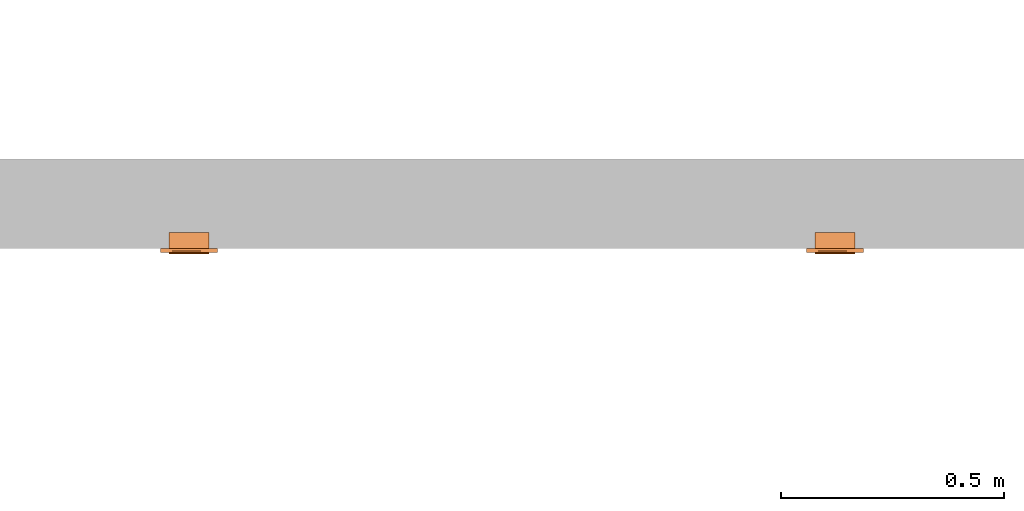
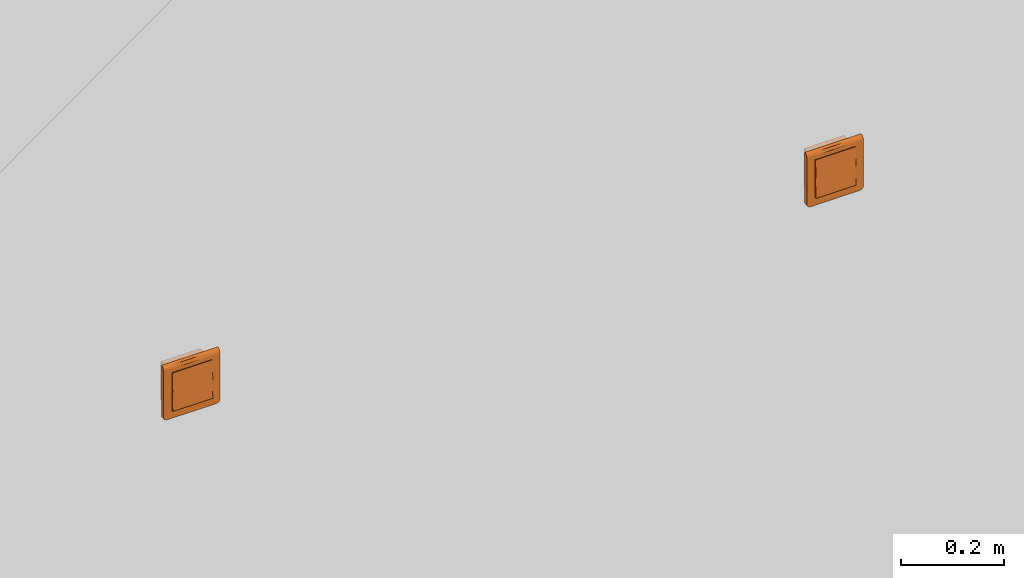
# One storey, part 185 of 197: 2 proxies.
"""IFC2X3 building model written with IfcOpenShell, lengths in metres."""

from ifc_helpers import new_model, entity, si_unit, converted_unit, direction, frame, origin, place, context, subcontext, project, spatial, faceted_brep, source, transform, mapped, material, material_list, type_object, type_shapes, element, save


model = new_model("IFC2X3")

# Units and contexts
model_context = context("Model", 3, precision=1e-05, world=origin(), true_north=direction((6.123031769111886e-17, 1.0)))
body_context = subcontext(model_context, "Body", "Model", "MODEL_VIEW")
ifc_project = project(units=[si_unit("LENGTHUNIT", "METRE"), converted_unit("PLANEANGLEUNIT", "DEGREE", entity("IfcPlaneAngleMeasure", 0.017453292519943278), si_unit("PLANEANGLEUNIT", "RADIAN"), dimensions=[0, 0, 0, 0, 0, 0, 0]), si_unit("AREAUNIT", "SQUARE_METRE")], contexts=[model_context])

# Site, building, storey
site_placement = place(None, origin())
site = spatial("IfcSite", under=ifc_project, at=site_placement, Name="Default", CompositionType="ELEMENT")
building_placement = place(site_placement, origin())
building = spatial("IfcBuilding", under=site, at=building_placement, CompositionType="ELEMENT")
storey_placement = place(building_placement, origin())
storey = spatial("IfcBuildingStorey", under=building, at=storey_placement, Name="Niveau 0", CompositionType="ELEMENT", Elevation=0.0)

# Proxies
ifc_material_1 = material(Name="<Unnamed>")
ifc_material_2 = material(Name="BETCE-DOIGT-BLANC")
ifc_material_3 = material(Name="BETCE-ENJOLIVEUR-BLANC")
ifc_material_list = material_list([ifc_material_1, ifc_material_2, ifc_material_3])
building_element_proxy_type_1 = type_object("IfcBuildingElementProxyType", Name="Tableau commande 2x4 modules encastré:2 BP + 4 SA + 2 VV", PredefinedType="NOTDEFINED", material=ifc_material_list)
shared_shape_1 = source(origin(), body_context, "Body", "Brep", [
    faceted_brep([(0.04499999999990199, 0.0, 0.0), (0.04499999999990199, 0.03499999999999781, 0.0), (0.022499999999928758, 0.03499999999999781, 0.0), (0.022499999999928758, 0.0, 0.0), (0.04499999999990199, 0.0, -0.045000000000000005), (0.022499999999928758, 0.0, -0.045000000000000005), (0.022499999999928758, 0.03499999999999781, -0.045000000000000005), (0.04499999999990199, 0.03499999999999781, -0.045000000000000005)], [[[0, 1, 2, 3]], [[4, 5, 6, 7]], [[1, 0, 4, 7]], [[2, 1, 7, 6]], [[3, 2, 6, 5]], [[0, 3, 5, 4]]]),
    faceted_brep([(0.04499999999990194, 0.0, 0.045000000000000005), (0.04499999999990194, 0.03499999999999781, 0.045000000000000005), (0.022499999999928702, 0.03499999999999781, 0.045000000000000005), (0.022499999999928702, 0.0, 0.045000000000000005), (0.04499999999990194, 0.0, 0.0), (0.022499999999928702, 0.0, 0.0), (0.022499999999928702, 0.03499999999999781, 0.0), (0.04499999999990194, 0.03499999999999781, 0.0)], [[[0, 1, 2, 3]], [[4, 5, 6, 7]], [[1, 0, 4, 7]], [[2, 1, 7, 6]], [[3, 2, 6, 5]], [[0, 3, 5, 4]]]),
    faceted_brep([(0.022499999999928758, 0.0, 0.0), (0.022499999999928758, 0.03499999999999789, 0.0), (0.0, 0.03499999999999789, 0.0), (0.0, 0.0, 0.0), (0.022499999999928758, 0.0, -0.045000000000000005), (0.0, 0.0, -0.045000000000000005), (0.0, 0.03499999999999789, -0.045000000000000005), (0.022499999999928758, 0.03499999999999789, -0.045000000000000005)], [[[0, 1, 2, 3]], [[4, 5, 6, 7]], [[1, 0, 4, 7]], [[2, 1, 7, 6]], [[3, 2, 6, 5]], [[0, 3, 5, 4]]]),
    faceted_brep([(0.0224999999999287, 0.0, 0.045000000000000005), (0.0224999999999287, 0.03499999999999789, 0.045000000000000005), (0.0, 0.03499999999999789, 0.045000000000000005), (0.0, 0.0, 0.045000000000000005), (0.0224999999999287, 0.0, 0.0), (0.0, 0.0, 0.0), (0.0, 0.03499999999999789, 0.0), (0.0224999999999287, 0.03499999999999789, 0.0)], [[[0, 1, 2, 3]], [[4, 5, 6, 7]], [[1, 0, 4, 7]], [[2, 1, 7, 6]], [[3, 2, 6, 5]], [[0, 3, 5, 4]]]),
    faceted_brep([(0.0, 0.0, 0.0), (0.0, 0.034999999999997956, 0.0), (-0.022500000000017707, 0.034999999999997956, 0.0), (-0.022500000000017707, 0.0, 0.0), (0.0, 0.0, -0.045000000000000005), (-0.022500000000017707, 0.0, -0.045000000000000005), (-0.022500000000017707, 0.034999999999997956, -0.045000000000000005), (0.0, 0.034999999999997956, -0.045000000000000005)], [[[0, 1, 2, 3]], [[4, 5, 6, 7]], [[1, 0, 4, 7]], [[2, 1, 7, 6]], [[3, 2, 6, 5]], [[0, 3, 5, 4]]]),
    faceted_brep([(0.0, 0.0, 0.045000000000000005), (0.0, 0.034999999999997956, 0.045000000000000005), (-0.022500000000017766, 0.034999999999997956, 0.045000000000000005), (-0.022500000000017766, 0.0, 0.045000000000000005), (0.0, 0.0, 0.0), (-0.022500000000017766, 0.0, 0.0), (-0.022500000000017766, 0.034999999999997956, 0.0), (0.0, 0.034999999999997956, 0.0)], [[[0, 1, 2, 3]], [[4, 5, 6, 7]], [[1, 0, 4, 7]], [[2, 1, 7, 6]], [[3, 2, 6, 5]], [[0, 3, 5, 4]]]),
    faceted_brep([(-0.02250000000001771, 0.0, 0.0), (-0.02250000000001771, 0.034999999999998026, 0.0), (-0.044999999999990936, 0.034999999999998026, 0.0), (-0.044999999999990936, 0.0, 0.0), (-0.02250000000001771, 0.0, -0.045000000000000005), (-0.044999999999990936, 0.0, -0.045000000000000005), (-0.044999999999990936, 0.034999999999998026, -0.045000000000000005), (-0.02250000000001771, 0.034999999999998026, -0.045000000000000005)], [[[0, 1, 2, 3]], [[4, 5, 6, 7]], [[1, 0, 4, 7]], [[2, 1, 7, 6]], [[3, 2, 6, 5]], [[0, 3, 5, 4]]]),
    faceted_brep([(-0.022500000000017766, 0.0, 0.045000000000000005), (-0.022500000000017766, 0.034999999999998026, 0.045000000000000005), (-0.044999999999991, 0.034999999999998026, 0.045000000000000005), (-0.044999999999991, 0.0, 0.045000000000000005), (-0.022500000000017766, 0.0, 0.0), (-0.044999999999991, 0.0, 0.0), (-0.044999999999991, 0.034999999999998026, 0.0), (-0.022500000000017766, 0.034999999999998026, 0.0)], [[[0, 1, 2, 3]], [[4, 5, 6, 7]], [[1, 0, 4, 7]], [[2, 1, 7, 6]], [[3, 2, 6, 5]], [[0, 3, 5, 4]]]),
    faceted_brep([(0.022499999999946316, 0.0, -0.045000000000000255), (0.022499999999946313, 0.0, 0.0), (0.04499999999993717, 0.0, 0.0), (0.04499999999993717, 0.0, -0.045000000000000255), (0.022499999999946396, -0.012750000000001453, -0.045000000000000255), (0.022499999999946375, -0.010500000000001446, 0.0), (0.044999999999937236, -0.010500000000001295, 0.0), (0.04499999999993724, -0.012750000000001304, -0.045000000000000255)], [[[0, 1, 2, 3]], [[1, 0, 4, 5]], [[2, 1, 5, 6]], [[3, 2, 6, 7]], [[0, 3, 7, 4]], [[5, 4, 7, 6]]]),
    faceted_brep([(0.0, 0.0, -0.04500000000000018), (0.0, 0.0, 0.0), (0.022499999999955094, 0.0, 0.0), (0.022499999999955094, 0.0, -0.04500000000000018), (0.0, -0.012750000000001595, -0.04500000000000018), (0.0, -0.010500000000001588, 0.0), (0.022499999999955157, -0.01050000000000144, 0.0), (0.022499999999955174, -0.012750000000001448, -0.04500000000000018)], [[[0, 1, 2, 3]], [[1, 0, 4, 5]], [[2, 1, 5, 6]], [[3, 2, 6, 7]], [[0, 3, 7, 4]], [[5, 4, 7, 6]]]),
    faceted_brep([(-0.022500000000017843, 0.0, -0.0450000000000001), (-0.022500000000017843, 0.0, 0.0), (0.0, 0.0, 0.0), (0.0, 0.0, -0.0450000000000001), (-0.02250000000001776, -0.012750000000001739, -0.0450000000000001), (-0.022500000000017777, -0.010500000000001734, 0.0), (0.0, -0.010500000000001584, 0.0), (0.0, -0.012750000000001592, -0.0450000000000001)], [[[0, 1, 2, 3]], [[1, 0, 4, 5]], [[2, 1, 5, 6]], [[3, 2, 6, 7]], [[0, 3, 7, 4]], [[5, 4, 7, 6]]]),
    faceted_brep([(-0.04499999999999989, 0.0, -0.045000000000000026), (-0.04499999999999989, 0.0, 0.0), (-0.022500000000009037, 0.0, 0.0), (-0.022500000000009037, 0.0, -0.045000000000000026), (-0.04499999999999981, -0.012750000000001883, -0.045000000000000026), (-0.04499999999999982, -0.010500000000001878, 0.0), (-0.022500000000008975, -0.01050000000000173, 0.0), (-0.022500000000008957, -0.012750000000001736, -0.045000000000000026)], [[[0, 1, 2, 3]], [[1, 0, 4, 5]], [[2, 1, 5, 6]], [[3, 2, 6, 7]], [[0, 3, 7, 4]], [[5, 4, 7, 6]]]),
    faceted_brep([(0.02249999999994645, -0.010500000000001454, 0.04499999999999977), (0.022499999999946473, -0.012750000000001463, 0.0), (0.04499999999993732, -0.012750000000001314, 0.0), (0.044999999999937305, -0.010500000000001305, 0.04499999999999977), (0.022499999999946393, 0.0, 0.0), (0.02249999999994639, 0.0, 0.04499999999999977), (0.04499999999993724, 0.0, 0.04499999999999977), (0.04499999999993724, 0.0, 0.0)], [[[0, 1, 2, 3]], [[4, 5, 6, 7]], [[5, 4, 1, 0]], [[6, 5, 0, 3]], [[7, 6, 3, 2]], [[4, 7, 2, 1]]]),
    faceted_brep([(0.0, -0.010500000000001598, 0.044999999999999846), (0.0, -0.012750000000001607, 0.0), (0.02249999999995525, -0.012750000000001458, 0.0), (0.022499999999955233, -0.010500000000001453, 0.044999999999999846), (0.0, 0.0, 0.0), (0.0, 0.0, 0.044999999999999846), (0.02249999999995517, 0.0, 0.04499999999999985), (0.02249999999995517, 0.0, 0.0)], [[[0, 1, 2, 3]], [[4, 5, 6, 7]], [[5, 4, 1, 0]], [[6, 5, 0, 3]], [[7, 6, 3, 2]], [[4, 7, 2, 1]]]),
    faceted_brep([(-0.0225000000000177, -0.010500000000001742, 0.04499999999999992), (-0.022500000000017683, -0.01275000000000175, 0.0), (0.0, -0.012750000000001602, 0.0), (0.0, -0.010500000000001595, 0.04499999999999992), (-0.022500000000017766, 0.0, 0.0), (-0.022500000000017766, 0.0, 0.04499999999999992), (0.0, 0.0, 0.04499999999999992), (0.0, 0.0, 0.0)], [[[0, 1, 2, 3]], [[4, 5, 6, 7]], [[5, 4, 1, 0]], [[6, 5, 0, 3]], [[7, 6, 3, 2]], [[4, 7, 2, 1]]]),
    faceted_brep([(-0.044999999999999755, -0.010500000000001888, 0.045), (-0.044999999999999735, -0.012750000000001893, 0.0), (-0.02250000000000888, -0.012750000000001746, 0.0), (-0.0225000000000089, -0.010500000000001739, 0.045), (-0.04499999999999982, 0.0, 0.0), (-0.04499999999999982, 0.0, 0.045), (-0.022500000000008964, 0.0, 0.045000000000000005), (-0.022500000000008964, 0.0, 0.0)], [[[0, 1, 2, 3]], [[4, 5, 6, 7]], [[5, 4, 1, 0]], [[6, 5, 0, 3]], [[7, 6, 3, 2]], [[4, 7, 2, 1]]]),
    faceted_brep([(0.06350000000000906, -0.009000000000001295, -0.055500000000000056), (0.06350000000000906, -0.009000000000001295, 0.05450000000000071), (0.045000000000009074, -0.00900000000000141, -0.045000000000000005), (0.055500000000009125, -0.009000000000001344, -0.06350000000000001), (0.057570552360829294, -0.009000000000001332, -0.06322740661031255), (0.06322740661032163, -0.009000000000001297, -0.05757055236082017), (0.04500000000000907, -0.00900000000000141, 0.045), (-0.044999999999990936, -0.00900000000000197, 0.045000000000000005), (-0.01112442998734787, -0.009000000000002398, 0.054500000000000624), (-0.06349999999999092, -0.009000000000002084, 0.05450000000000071), (-0.044999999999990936, -0.00900000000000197, -0.045000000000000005), (-0.06349999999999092, -0.009000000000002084, -0.05550000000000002), (-0.055499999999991, -0.009000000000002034, -0.06350000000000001), (-0.0575705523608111, -0.009000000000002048, -0.06322740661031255), (-0.06322740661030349, -0.009000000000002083, -0.05757055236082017), (-0.05949999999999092, -0.00900000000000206, -0.062428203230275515), (-0.062428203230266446, -0.009000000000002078, -0.05950000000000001), (-0.06115685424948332, -0.00900000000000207, -0.06115685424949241), (0.059500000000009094, -0.00900000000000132, -0.062428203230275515), (0.062428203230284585, -0.009000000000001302, -0.05949999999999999), (0.06115685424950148, -0.009000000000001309, -0.061156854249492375), (-0.063499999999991, 0.0, -0.05550000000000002), (-0.063499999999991, 0.0, 0.06350000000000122), (-0.044999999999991, 0.0, 0.045000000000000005), (-0.044999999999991, 0.0, -0.045000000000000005), (-0.055499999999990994, 0.0, -0.06350000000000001), (-0.06322740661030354, 0.0, -0.05757055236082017), (0.045000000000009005, 0.0, 0.045000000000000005), (0.011124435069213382, 0.0, 0.06350000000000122), (0.06350000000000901, 0.0, 0.0635), (0.06350000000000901, 0.0, -0.05550000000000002), (0.045000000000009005, 0.0, -0.045000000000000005), (0.05550000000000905, 0.0, -0.06350000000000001), (0.06322740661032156, 0.0, -0.05757055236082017), (0.057570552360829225, 0.0, -0.06322740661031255), (0.06242820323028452, 0.0, -0.05949999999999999), (0.05950000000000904, 0.0, -0.062428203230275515), (0.06115685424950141, 0.0, -0.061156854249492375), (-0.05757055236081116, 0.0, -0.06322740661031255), (-0.0624282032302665, 0.0, -0.05950000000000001), (-0.059499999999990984, 0.0, -0.062428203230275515), (-0.06115685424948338, 0.0, -0.06115685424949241), (0.06350000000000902, -0.00232937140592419, 0.06319333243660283), (0.06350000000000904, -0.004500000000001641, 0.06229422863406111), (0.06350000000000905, -0.006363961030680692, 0.06086396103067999), (0.06350000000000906, -0.007794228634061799, 0.05900000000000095), (0.06350000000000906, -0.008693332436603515, 0.056829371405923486), (-0.06349999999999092, -0.00869333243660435, 0.0568293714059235), (-0.06349999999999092, -0.007794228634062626, 0.059000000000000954), (-0.06349999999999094, -0.006363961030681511, 0.06086396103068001), (-0.06349999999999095, -0.004500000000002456, 0.062294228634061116), (-0.06349999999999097, -0.002329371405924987, 0.06319333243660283), (-0.010857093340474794, -0.006120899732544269, 0.06109807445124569)], [[[0, 1, 2]], [[3, 0, 2]], [[0, 3, 4]], [[5, 0, 4]], [[2, 1, 6]], [[1, 7, 6]], [[7, 1, 8]], [[7, 8, 9]], [[10, 7, 9]], [[11, 10, 9]], [[12, 10, 11]], [[12, 11, 13]], [[13, 11, 14]], [[15, 13, 14]], [[16, 15, 14]], [[15, 16, 17]], [[10, 12, 3]], [[2, 10, 3]], [[5, 4, 18]], [[5, 18, 19]], [[20, 19, 18]], [[21, 22, 23]], [[24, 21, 23]], [[25, 21, 24]], [[26, 21, 25]], [[22, 27, 23]], [[27, 22, 28]], [[27, 28, 29]], [[30, 27, 29]], [[31, 27, 30]], [[32, 31, 30]], [[32, 30, 33]], [[32, 33, 34]], [[33, 35, 34]], [[35, 36, 34]], [[36, 35, 37]], [[31, 32, 25]], [[26, 25, 38]], [[24, 31, 25]], [[39, 26, 38]], [[39, 38, 40]], [[41, 39, 40]], [[1, 0, 30, 29, 42, 43, 44, 45, 46]], [[33, 30, 0, 5]], [[35, 33, 5, 19]], [[37, 35, 19, 20]], [[36, 37, 20, 18]], [[34, 36, 18, 4]], [[32, 34, 4, 3]], [[25, 32, 3, 12]], [[38, 25, 12, 13]], [[40, 38, 13, 15]], [[41, 40, 15, 17]], [[39, 41, 17, 16]], [[26, 39, 16, 14]], [[21, 26, 14, 11]], [[22, 21, 11, 9, 47, 48, 49, 50, 51]], [[24, 23, 7, 10]], [[31, 24, 10, 2]], [[27, 31, 2, 6]], [[23, 27, 6, 7]], [[52, 8, 45]], [[47, 9, 8]], [[1, 46, 8]], [[44, 52, 45]], [[46, 45, 8]], [[50, 52, 51]], [[48, 47, 8]], [[28, 52, 43]], [[48, 52, 49]], [[42, 29, 28]], [[28, 22, 51]], [[48, 8, 52]], [[28, 43, 42]], [[44, 43, 52]], [[52, 50, 49]], [[52, 28, 51]]]),
])
type_shapes(building_element_proxy_type_1, [shared_shape_1])
proxy_1_placement = place(storey_placement, frame((-333.1867796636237, 122.781355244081, 1.1)))
element("IfcBuildingElementProxy", 1, at=proxy_1_placement, inside=storey, type_object=building_element_proxy_type_1, material=ifc_material_list, Name="Tableau commande 2x4 modules encastré:2 BP + 4 SA + 2 VV", ObjectType="Tableau commande 2x4 modules encastré:2 BP + 4 SA + 2 VV", context=body_context, shape_type="MappedRepresentation", body=[
    mapped(shared_shape_1, transform((0.0, 0.0, 0.0), scale=1.0)),
])
building_element_proxy_type_2 = type_object("IfcBuildingElementProxyType", Name="Tableau commande 2x4 modules encastré:4 BP + 2 SA + 2 VV", PredefinedType="NOTDEFINED", material=ifc_material_list)
shared_shape_2 = source(origin(), body_context, "Body", "Brep", [
    faceted_brep([(0.04499999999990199, 0.0, 0.0), (0.04499999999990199, 0.03499999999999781, 0.0), (0.022499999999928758, 0.03499999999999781, 0.0), (0.022499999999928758, 0.0, 0.0), (0.04499999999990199, 0.0, -0.045000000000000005), (0.022499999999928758, 0.0, -0.045000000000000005), (0.022499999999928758, 0.03499999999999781, -0.045000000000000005), (0.04499999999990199, 0.03499999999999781, -0.045000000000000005)], [[[0, 1, 2, 3]], [[4, 5, 6, 7]], [[1, 0, 4, 7]], [[2, 1, 7, 6]], [[3, 2, 6, 5]], [[0, 3, 5, 4]]]),
    faceted_brep([(0.04499999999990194, 0.0, 0.045000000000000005), (0.04499999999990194, 0.03499999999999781, 0.045000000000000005), (0.022499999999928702, 0.03499999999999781, 0.045000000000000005), (0.022499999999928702, 0.0, 0.045000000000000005), (0.04499999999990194, 0.0, 0.0), (0.022499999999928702, 0.0, 0.0), (0.022499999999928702, 0.03499999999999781, 0.0), (0.04499999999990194, 0.03499999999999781, 0.0)], [[[0, 1, 2, 3]], [[4, 5, 6, 7]], [[1, 0, 4, 7]], [[2, 1, 7, 6]], [[3, 2, 6, 5]], [[0, 3, 5, 4]]]),
    faceted_brep([(0.022499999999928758, 0.0, 0.0), (0.022499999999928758, 0.03499999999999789, 0.0), (0.0, 0.03499999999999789, 0.0), (0.0, 0.0, 0.0), (0.022499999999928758, 0.0, -0.045000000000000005), (0.0, 0.0, -0.045000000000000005), (0.0, 0.03499999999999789, -0.045000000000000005), (0.022499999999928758, 0.03499999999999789, -0.045000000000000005)], [[[0, 1, 2, 3]], [[4, 5, 6, 7]], [[1, 0, 4, 7]], [[2, 1, 7, 6]], [[3, 2, 6, 5]], [[0, 3, 5, 4]]]),
    faceted_brep([(0.0224999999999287, 0.0, 0.045000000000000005), (0.0224999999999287, 0.03499999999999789, 0.045000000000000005), (0.0, 0.03499999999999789, 0.045000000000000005), (0.0, 0.0, 0.045000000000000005), (0.0224999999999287, 0.0, 0.0), (0.0, 0.0, 0.0), (0.0, 0.03499999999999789, 0.0), (0.0224999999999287, 0.03499999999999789, 0.0)], [[[0, 1, 2, 3]], [[4, 5, 6, 7]], [[1, 0, 4, 7]], [[2, 1, 7, 6]], [[3, 2, 6, 5]], [[0, 3, 5, 4]]]),
    faceted_brep([(0.0, 0.0, 0.0), (0.0, 0.034999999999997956, 0.0), (-0.022500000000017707, 0.034999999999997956, 0.0), (-0.022500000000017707, 0.0, 0.0), (0.0, 0.0, -0.045000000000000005), (-0.022500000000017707, 0.0, -0.045000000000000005), (-0.022500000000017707, 0.034999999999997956, -0.045000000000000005), (0.0, 0.034999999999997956, -0.045000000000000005)], [[[0, 1, 2, 3]], [[4, 5, 6, 7]], [[1, 0, 4, 7]], [[2, 1, 7, 6]], [[3, 2, 6, 5]], [[0, 3, 5, 4]]]),
    faceted_brep([(0.0, 0.0, 0.045000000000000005), (0.0, 0.034999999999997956, 0.045000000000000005), (-0.022500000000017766, 0.034999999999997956, 0.045000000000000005), (-0.022500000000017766, 0.0, 0.045000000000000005), (0.0, 0.0, 0.0), (-0.022500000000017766, 0.0, 0.0), (-0.022500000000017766, 0.034999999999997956, 0.0), (0.0, 0.034999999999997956, 0.0)], [[[0, 1, 2, 3]], [[4, 5, 6, 7]], [[1, 0, 4, 7]], [[2, 1, 7, 6]], [[3, 2, 6, 5]], [[0, 3, 5, 4]]]),
    faceted_brep([(-0.02250000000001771, 0.0, 0.0), (-0.02250000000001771, 0.034999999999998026, 0.0), (-0.044999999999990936, 0.034999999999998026, 0.0), (-0.044999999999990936, 0.0, 0.0), (-0.02250000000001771, 0.0, -0.045000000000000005), (-0.044999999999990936, 0.0, -0.045000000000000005), (-0.044999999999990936, 0.034999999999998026, -0.045000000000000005), (-0.02250000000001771, 0.034999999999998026, -0.045000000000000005)], [[[0, 1, 2, 3]], [[4, 5, 6, 7]], [[1, 0, 4, 7]], [[2, 1, 7, 6]], [[3, 2, 6, 5]], [[0, 3, 5, 4]]]),
    faceted_brep([(-0.022500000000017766, 0.0, 0.045000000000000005), (-0.022500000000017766, 0.034999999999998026, 0.045000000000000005), (-0.044999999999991, 0.034999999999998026, 0.045000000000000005), (-0.044999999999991, 0.0, 0.045000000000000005), (-0.022500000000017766, 0.0, 0.0), (-0.044999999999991, 0.0, 0.0), (-0.044999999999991, 0.034999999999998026, 0.0), (-0.022500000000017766, 0.034999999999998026, 0.0)], [[[0, 1, 2, 3]], [[4, 5, 6, 7]], [[1, 0, 4, 7]], [[2, 1, 7, 6]], [[3, 2, 6, 5]], [[0, 3, 5, 4]]]),
    faceted_brep([(0.022499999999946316, 0.0, -0.045000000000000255), (0.022499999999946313, 0.0, 0.0), (0.04499999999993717, 0.0, 0.0), (0.04499999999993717, 0.0, -0.045000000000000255), (0.022499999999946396, -0.012750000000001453, -0.045000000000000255), (0.022499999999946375, -0.010500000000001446, 0.0), (0.044999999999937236, -0.010500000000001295, 0.0), (0.04499999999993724, -0.012750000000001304, -0.045000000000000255)], [[[0, 1, 2, 3]], [[1, 0, 4, 5]], [[2, 1, 5, 6]], [[3, 2, 6, 7]], [[0, 3, 7, 4]], [[5, 4, 7, 6]]]),
    faceted_brep([(0.0, 0.0, -0.04500000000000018), (0.0, 0.0, 0.0), (0.022499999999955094, 0.0, 0.0), (0.022499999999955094, 0.0, -0.04500000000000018), (0.0, -0.012750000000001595, -0.04500000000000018), (0.0, -0.010500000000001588, 0.0), (0.022499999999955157, -0.01050000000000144, 0.0), (0.022499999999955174, -0.012750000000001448, -0.04500000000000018)], [[[0, 1, 2, 3]], [[1, 0, 4, 5]], [[2, 1, 5, 6]], [[3, 2, 6, 7]], [[0, 3, 7, 4]], [[5, 4, 7, 6]]]),
    faceted_brep([(-0.022500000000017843, 0.0, -0.0450000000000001), (-0.022500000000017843, 0.0, 0.0), (0.0, 0.0, 0.0), (0.0, 0.0, -0.0450000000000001), (-0.02250000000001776, -0.012750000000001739, -0.0450000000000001), (-0.022500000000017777, -0.010500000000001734, 0.0), (0.0, -0.010500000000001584, 0.0), (0.0, -0.012750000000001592, -0.0450000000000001)], [[[0, 1, 2, 3]], [[1, 0, 4, 5]], [[2, 1, 5, 6]], [[3, 2, 6, 7]], [[0, 3, 7, 4]], [[5, 4, 7, 6]]]),
    faceted_brep([(-0.04499999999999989, 0.0, -0.045000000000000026), (-0.04499999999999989, 0.0, 0.0), (-0.022500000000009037, 0.0, 0.0), (-0.022500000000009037, 0.0, -0.045000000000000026), (-0.04499999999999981, -0.012750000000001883, -0.045000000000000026), (-0.04499999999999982, -0.010500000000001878, 0.0), (-0.022500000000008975, -0.01050000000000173, 0.0), (-0.022500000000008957, -0.012750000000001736, -0.045000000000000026)], [[[0, 1, 2, 3]], [[1, 0, 4, 5]], [[2, 1, 5, 6]], [[3, 2, 6, 7]], [[0, 3, 7, 4]], [[5, 4, 7, 6]]]),
    faceted_brep([(0.02249999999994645, -0.010500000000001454, 0.04499999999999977), (0.022499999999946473, -0.012750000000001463, 0.0), (0.04499999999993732, -0.012750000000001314, 0.0), (0.044999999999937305, -0.010500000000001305, 0.04499999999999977), (0.022499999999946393, 0.0, 0.0), (0.02249999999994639, 0.0, 0.04499999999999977), (0.04499999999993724, 0.0, 0.04499999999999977), (0.04499999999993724, 0.0, 0.0)], [[[0, 1, 2, 3]], [[4, 5, 6, 7]], [[5, 4, 1, 0]], [[6, 5, 0, 3]], [[7, 6, 3, 2]], [[4, 7, 2, 1]]]),
    faceted_brep([(0.0, -0.010500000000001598, 0.044999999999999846), (0.0, -0.012750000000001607, 0.0), (0.02249999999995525, -0.012750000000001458, 0.0), (0.022499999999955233, -0.010500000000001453, 0.044999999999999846), (0.0, 0.0, 0.0), (0.0, 0.0, 0.044999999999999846), (0.02249999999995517, 0.0, 0.04499999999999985), (0.02249999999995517, 0.0, 0.0)], [[[0, 1, 2, 3]], [[4, 5, 6, 7]], [[5, 4, 1, 0]], [[6, 5, 0, 3]], [[7, 6, 3, 2]], [[4, 7, 2, 1]]]),
    faceted_brep([(-0.0225000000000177, -0.010500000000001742, 0.04499999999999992), (-0.022500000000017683, -0.01275000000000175, 0.0), (0.0, -0.012750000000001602, 0.0), (0.0, -0.010500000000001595, 0.04499999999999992), (-0.022500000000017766, 0.0, 0.0), (-0.022500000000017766, 0.0, 0.04499999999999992), (0.0, 0.0, 0.04499999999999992), (0.0, 0.0, 0.0)], [[[0, 1, 2, 3]], [[4, 5, 6, 7]], [[5, 4, 1, 0]], [[6, 5, 0, 3]], [[7, 6, 3, 2]], [[4, 7, 2, 1]]]),
    faceted_brep([(-0.044999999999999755, -0.010500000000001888, 0.045), (-0.044999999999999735, -0.012750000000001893, 0.0), (-0.02250000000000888, -0.012750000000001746, 0.0), (-0.0225000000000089, -0.010500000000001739, 0.045), (-0.04499999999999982, 0.0, 0.0), (-0.04499999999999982, 0.0, 0.045), (-0.022500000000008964, 0.0, 0.045000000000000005), (-0.022500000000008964, 0.0, 0.0)], [[[0, 1, 2, 3]], [[4, 5, 6, 7]], [[5, 4, 1, 0]], [[6, 5, 0, 3]], [[7, 6, 3, 2]], [[4, 7, 2, 1]]]),
    faceted_brep([(0.06350000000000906, -0.009000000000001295, -0.055500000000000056), (0.06350000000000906, -0.009000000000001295, 0.05450000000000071), (0.045000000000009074, -0.00900000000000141, -0.045000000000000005), (0.055500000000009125, -0.009000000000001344, -0.06350000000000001), (0.057570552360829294, -0.009000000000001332, -0.06322740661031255), (0.06322740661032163, -0.009000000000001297, -0.05757055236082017), (0.04500000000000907, -0.00900000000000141, 0.045), (-0.044999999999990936, -0.00900000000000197, 0.045000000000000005), (-0.01112442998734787, -0.009000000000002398, 0.054500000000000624), (-0.06349999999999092, -0.009000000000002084, 0.05450000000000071), (-0.044999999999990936, -0.00900000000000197, -0.045000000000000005), (-0.06349999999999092, -0.009000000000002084, -0.05550000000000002), (-0.055499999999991, -0.009000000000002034, -0.06350000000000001), (-0.0575705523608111, -0.009000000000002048, -0.06322740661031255), (-0.06322740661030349, -0.009000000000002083, -0.05757055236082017), (-0.05949999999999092, -0.00900000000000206, -0.062428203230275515), (-0.062428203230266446, -0.009000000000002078, -0.05950000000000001), (-0.06115685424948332, -0.00900000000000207, -0.06115685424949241), (0.059500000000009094, -0.00900000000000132, -0.062428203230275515), (0.062428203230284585, -0.009000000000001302, -0.05949999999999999), (0.06115685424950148, -0.009000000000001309, -0.061156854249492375), (-0.063499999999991, 0.0, -0.05550000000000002), (-0.063499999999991, 0.0, 0.06350000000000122), (-0.044999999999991, 0.0, 0.045000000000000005), (-0.044999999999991, 0.0, -0.045000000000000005), (-0.055499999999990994, 0.0, -0.06350000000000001), (-0.06322740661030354, 0.0, -0.05757055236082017), (0.045000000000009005, 0.0, 0.045000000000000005), (0.011124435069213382, 0.0, 0.06350000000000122), (0.06350000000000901, 0.0, 0.0635), (0.06350000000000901, 0.0, -0.05550000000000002), (0.045000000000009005, 0.0, -0.045000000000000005), (0.05550000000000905, 0.0, -0.06350000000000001), (0.06322740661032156, 0.0, -0.05757055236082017), (0.057570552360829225, 0.0, -0.06322740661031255), (0.06242820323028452, 0.0, -0.05949999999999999), (0.05950000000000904, 0.0, -0.062428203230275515), (0.06115685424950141, 0.0, -0.061156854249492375), (-0.05757055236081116, 0.0, -0.06322740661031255), (-0.0624282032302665, 0.0, -0.05950000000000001), (-0.059499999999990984, 0.0, -0.062428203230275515), (-0.06115685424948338, 0.0, -0.06115685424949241), (0.06350000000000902, -0.00232937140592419, 0.06319333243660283), (0.06350000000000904, -0.004500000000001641, 0.06229422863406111), (0.06350000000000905, -0.006363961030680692, 0.06086396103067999), (0.06350000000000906, -0.007794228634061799, 0.05900000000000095), (0.06350000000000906, -0.008693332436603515, 0.056829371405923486), (-0.06349999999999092, -0.00869333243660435, 0.0568293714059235), (-0.06349999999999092, -0.007794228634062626, 0.059000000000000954), (-0.06349999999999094, -0.006363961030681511, 0.06086396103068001), (-0.06349999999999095, -0.004500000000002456, 0.062294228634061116), (-0.06349999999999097, -0.002329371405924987, 0.06319333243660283), (-0.010857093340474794, -0.006120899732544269, 0.06109807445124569)], [[[0, 1, 2]], [[3, 0, 2]], [[0, 3, 4]], [[5, 0, 4]], [[2, 1, 6]], [[1, 7, 6]], [[7, 1, 8]], [[7, 8, 9]], [[10, 7, 9]], [[11, 10, 9]], [[12, 10, 11]], [[12, 11, 13]], [[13, 11, 14]], [[15, 13, 14]], [[16, 15, 14]], [[15, 16, 17]], [[10, 12, 3]], [[2, 10, 3]], [[5, 4, 18]], [[5, 18, 19]], [[20, 19, 18]], [[21, 22, 23]], [[24, 21, 23]], [[25, 21, 24]], [[26, 21, 25]], [[22, 27, 23]], [[27, 22, 28]], [[27, 28, 29]], [[30, 27, 29]], [[31, 27, 30]], [[32, 31, 30]], [[32, 30, 33]], [[32, 33, 34]], [[33, 35, 34]], [[35, 36, 34]], [[36, 35, 37]], [[31, 32, 25]], [[26, 25, 38]], [[24, 31, 25]], [[39, 26, 38]], [[39, 38, 40]], [[41, 39, 40]], [[1, 0, 30, 29, 42, 43, 44, 45, 46]], [[33, 30, 0, 5]], [[35, 33, 5, 19]], [[37, 35, 19, 20]], [[36, 37, 20, 18]], [[34, 36, 18, 4]], [[32, 34, 4, 3]], [[25, 32, 3, 12]], [[38, 25, 12, 13]], [[40, 38, 13, 15]], [[41, 40, 15, 17]], [[39, 41, 17, 16]], [[26, 39, 16, 14]], [[21, 26, 14, 11]], [[22, 21, 11, 9, 47, 48, 49, 50, 51]], [[24, 23, 7, 10]], [[31, 24, 10, 2]], [[27, 31, 2, 6]], [[23, 27, 6, 7]], [[52, 8, 45]], [[47, 9, 8]], [[1, 46, 8]], [[44, 52, 45]], [[46, 45, 8]], [[50, 52, 51]], [[48, 47, 8]], [[28, 52, 43]], [[48, 52, 49]], [[42, 29, 28]], [[28, 22, 51]], [[48, 8, 52]], [[28, 43, 42]], [[44, 43, 52]], [[52, 50, 49]], [[52, 28, 51]]]),
])
type_shapes(building_element_proxy_type_2, [shared_shape_2])
proxy_2_placement = place(storey_placement, frame((-331.740779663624, 122.781355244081, 1.1)))
element("IfcBuildingElementProxy", 2, at=proxy_2_placement, inside=storey, type_object=building_element_proxy_type_2, material=ifc_material_list, Name="Tableau commande 2x4 modules encastré:4 BP + 2 SA + 2 VV", ObjectType="Tableau commande 2x4 modules encastré:4 BP + 2 SA + 2 VV", context=body_context, shape_type="MappedRepresentation", body=[
    mapped(shared_shape_2, transform((0.0, 0.0, 0.0), scale=1.0)),
])

save(model, "model.ifc")
